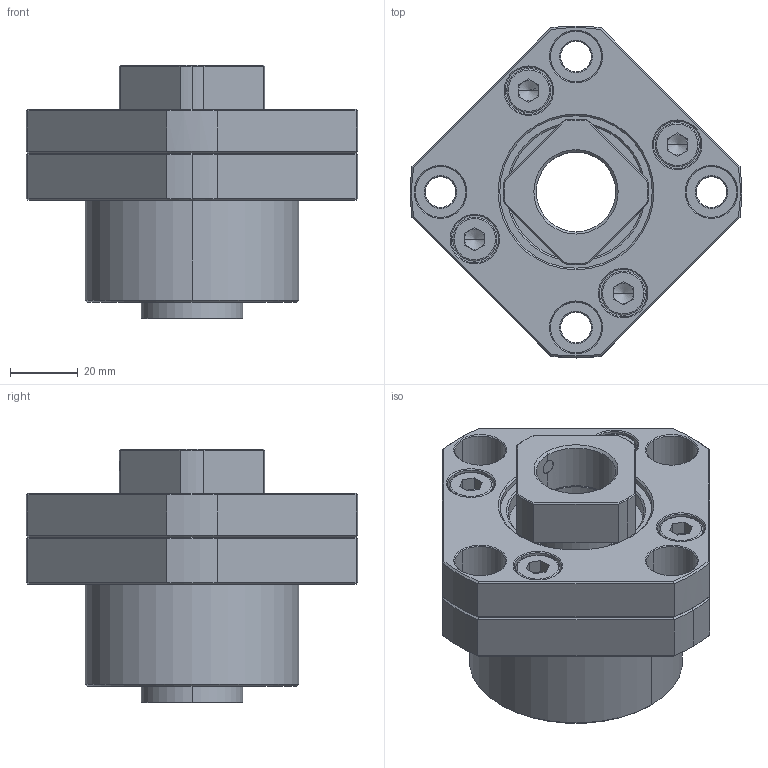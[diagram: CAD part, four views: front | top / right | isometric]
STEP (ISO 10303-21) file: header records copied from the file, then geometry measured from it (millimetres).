
FILE_DESCRIPTION (( 'STEP AP203' ), '1' );
FILE_NAME ('FSGK-25_203.STEP', '2013-07-19T03:24:58', ( 'Z77' ), ( '' ), 'SwSTEP 2.0', 'SolidWorks 2012', '' );
FILE_SCHEMA (( 'CONFIG_CONTROL_DESIGN' ));
Length unit declared in the file: millimetre
Products named in the file (1): FSGK-25_203
Bounding box: 97.87 x 98 x 75 mm (x, y, z)
Volume: 216354.8 mm3; surface area: 48979.4 mm2
Topology: 1 solids, 16 shells, 430 faces, 954 edges, 562 vertices
Faces by surface type: plane 138, cone 134, cylinder 118, torus 40
Entity records: 11970 total; most frequent: DIRECTION 2229, CARTESIAN_POINT 2184, ORIENTED_EDGE 1872, EDGE_CURVE 936, AXIS2_PLACEMENT_3D 917, VERTEX_POINT 562, CIRCLE 486, EDGE_LOOP 484
